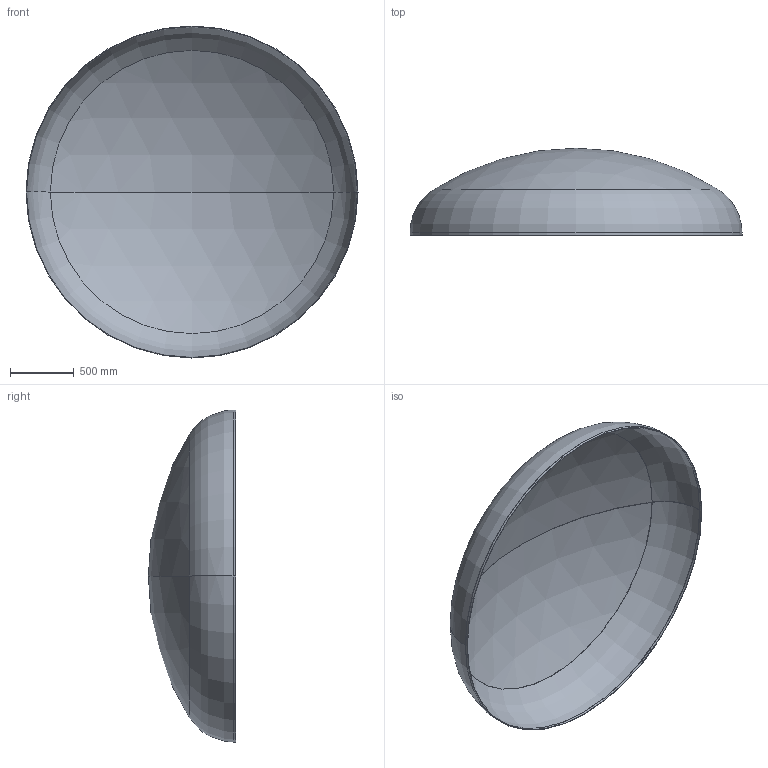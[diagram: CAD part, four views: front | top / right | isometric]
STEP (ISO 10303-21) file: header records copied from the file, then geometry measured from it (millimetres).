
FILE_DESCRIPTION (( 'STEP AP203' ), '1' );
FILE_NAME ('DIN 28013 Korbbogenform_-_Boden DIN 28013 - 2600 x 20 - I - s=4.step', '2016-07-01T15:49:21', ( '' ), ( '' ), 'SwSTEP 2.0', 'SolidWorks 2013', '' );
FILE_SCHEMA (( 'CONFIG_CONTROL_DESIGN' ));
Length unit declared in the file: millimetre
Products named in the file (1): DIN 28013 Korbbogenform_-_Boden DIN 28013 - 2600 x 20 - I - s=4
Bounding box: 2600 x 682.88 x 2600 mm (x, y, z)
Volume: 30003167.8 mm3; surface area: 15034233.5 mm2
Topology: 1 solids, 1 shells, 13 faces, 24 edges, 14 vertices
Faces by surface type: torus 4, cylinder 4, sphere 4, plane 1
Entity records: 407 total; most frequent: DIRECTION 72, CARTESIAN_POINT 52, ORIENTED_EDGE 48, AXIS2_PLACEMENT_3D 34, EDGE_CURVE 24, CIRCLE 20, VERTEX_POINT 14, EDGE_LOOP 14
